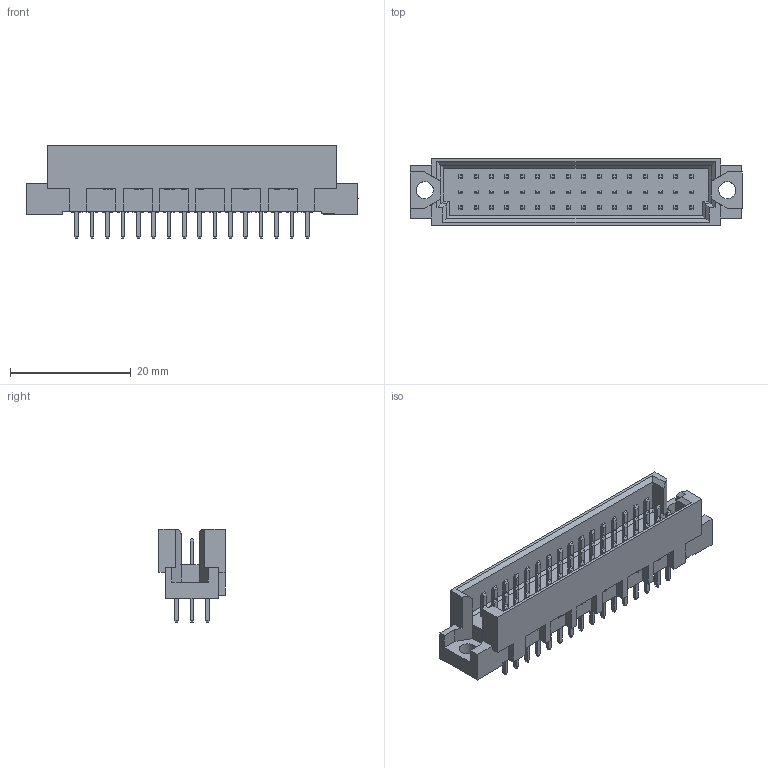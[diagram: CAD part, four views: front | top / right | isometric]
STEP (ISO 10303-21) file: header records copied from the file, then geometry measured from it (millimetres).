
FILE_DESCRIPTION(/* description */ (''),/* implementation_level */ '2;1');
FILE_NAME(/* name */ '100083301ugm000_c.stp',/* time_stamp */ '2023-04-24T15:09:24+02:00',/* author */ (''),/* organization */ (''),/* preprocessor_version */ 'ST-DEVELOPER v16.7',/* originating_system */ 'SIEMENS PLM Software NX 1911',/* authorisation */ '');
FILE_SCHEMA (('AUTOMOTIVE_DESIGN { 1 0 10303 214 3 1 1 1 }'));
Length unit declared in the file: millimetre
Products named in the file (1): 100083301ugm000_c
Bounding box: 54.9 x 11 x 15.5 mm (x, y, z)
Volume: 3177.3 mm3; surface area: 4340.6 mm2
Topology: 1 solids, 1 shells, 1219 faces, 3114 edges, 2019 vertices
Faces by surface type: plane 1062, cylinder 99, extrusion 58
Full cylindrical faces by diameter (mm): 2.85 x2
Entity records: 44948 total; most frequent: CARTESIAN_POINT 9350, ORIENTED_EDGE 6216, DIRECTION 5281, EDGE_CURVE 3108, VECTOR 2753, LINE 2695, VERTEX_POINT 2015, EDGE_LOOP 1347
